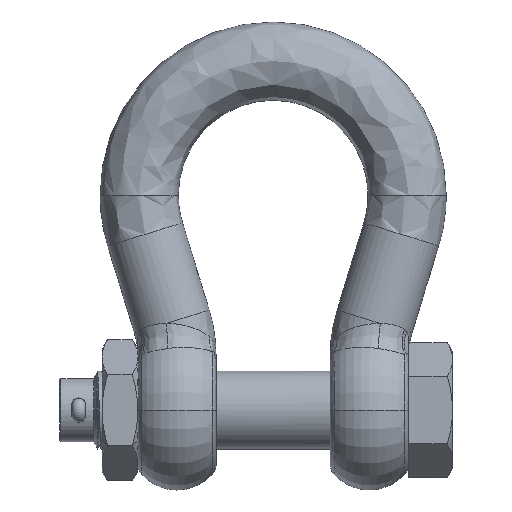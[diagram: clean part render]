
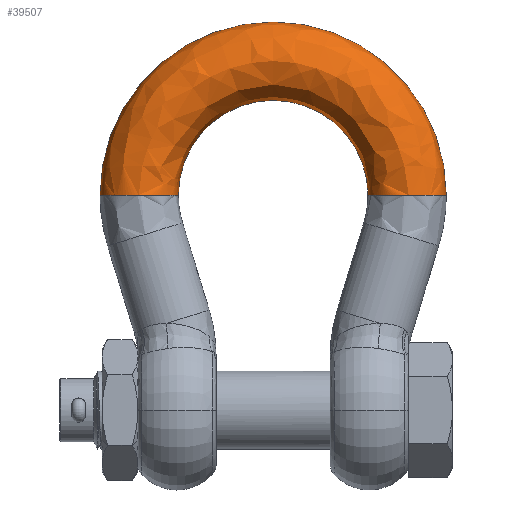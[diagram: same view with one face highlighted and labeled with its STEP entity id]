
A CAD part, top view. The second image highlights one B-rep face of the part: STEP entity #39507.
In plain terms, the highlighted free-form (B-spline) face has degree [3, 3] with [4, 4] control points.
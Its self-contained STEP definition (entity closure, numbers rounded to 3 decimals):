
#8503 = CARTESIAN_POINT ( 'NONE',  ( -125.995, 156.5, 0. ) ) ;
#8522 = DIRECTION ( 'NONE',  ( -1., 0., 0. ) ) ;
#8523 = DIRECTION ( 'NONE',  ( 0., 0., -1. ) ) ;
#8524 = CARTESIAN_POINT ( 'NONE',  ( 0., 156.5, 0. ) ) ;
#8525 = AXIS2_PLACEMENT_3D ( 'NONE', #8524, #8523, #8522 ) ;
#8527 = CIRCLE ( 'NONE', #8525, 125.995 ) ;
#8557 = CARTESIAN_POINT ( 'NONE',  ( 0., 156.5, 0. ) ) ;
#8558 = CARTESIAN_POINT ( 'NONE',  ( 69.005, 156.5, 0. ) ) ;
#8560 = CARTESIAN_POINT ( 'NONE',  ( 125.995, 156.5, 0. ) ) ;
#8577 = CARTESIAN_POINT ( 'NONE',  ( -69.005, 156.5, 0. ) ) ;
#8578 =( BOUNDED_CURVE ( )  B_SPLINE_CURVE ( 3, ( #8597, #8596, #8595, #8594 ),
 .UNSPECIFIED., .F., .F. ) 
 B_SPLINE_CURVE_WITH_KNOTS ( ( 4, 4 ),
 ( 0., 1. ),
 .UNSPECIFIED. ) 
 CURVE ( )  GEOMETRIC_REPRESENTATION_ITEM ( )  RATIONAL_B_SPLINE_CURVE ( ( 1., 0.333, 0.333, 1. ) ) 
 REPRESENTATION_ITEM ( '' )  );
#8579 =( BOUNDED_SURFACE ( )  B_SPLINE_SURFACE ( 3, 3, ( 
 ( #8577, #8612, #8611, #8610 ),
 ( #8609, #8608, #8607, #8606 ),
 ( #8605, #8604, #8603, #8602 ),
 ( #8601, #8600, #8599, #8598 ) ),
 .UNSPECIFIED., .F., .F., .F. ) 
 B_SPLINE_SURFACE_WITH_KNOTS ( ( 4, 4 ),
 ( 4, 4 ),
 ( 0., 1. ),
 ( 0., 1. ),
 .UNSPECIFIED. ) 
 GEOMETRIC_REPRESENTATION_ITEM ( )  RATIONAL_B_SPLINE_SURFACE ( (
 ( 1., 0.333, 0.333, 1.),
 ( 0.333, 0.111, 0.111, 0.333),
 ( 0.333, 0.111, 0.111, 0.333),
 ( 1., 0.333, 0.333, 1.) ) ) 
 REPRESENTATION_ITEM ( '' )  SURFACE ( )  );
#8581 = FACE_OUTER_BOUND ( 'NONE', #39508, .T. ) ;
#8582 = DIRECTION ( 'NONE',  ( -1., 0., 0. ) ) ;
#8583 = DIRECTION ( 'NONE',  ( 0., 0., 1. ) ) ;
#8584 = AXIS2_PLACEMENT_3D ( 'NONE', #8557, #8583, #8582 ) ;
#8585 = CIRCLE ( 'NONE', #8584, 69.005 ) ;
#8594 = CARTESIAN_POINT ( 'NONE',  ( 125.995, 156.5, 0. ) ) ;
#8595 = CARTESIAN_POINT ( 'NONE',  ( 125.995, 156.5, 56.99 ) ) ;
#8596 = CARTESIAN_POINT ( 'NONE',  ( 69.005, 156.5, 56.99 ) ) ;
#8597 = CARTESIAN_POINT ( 'NONE',  ( 69.005, 156.5, 0. ) ) ;
#8598 = CARTESIAN_POINT ( 'NONE',  ( 125.995, 156.5, 0. ) ) ;
#8599 = CARTESIAN_POINT ( 'NONE',  ( 125.995, 408.49, 0. ) ) ;
#8600 = CARTESIAN_POINT ( 'NONE',  ( -125.995, 408.49, 0. ) ) ;
#8601 = CARTESIAN_POINT ( 'NONE',  ( -125.995, 156.5, 0. ) ) ;
#8602 = CARTESIAN_POINT ( 'NONE',  ( 125.995, 156.5, 56.99 ) ) ;
#8603 = CARTESIAN_POINT ( 'NONE',  ( 125.995, 408.49, 56.99 ) ) ;
#8604 = CARTESIAN_POINT ( 'NONE',  ( -125.995, 408.49, 56.99 ) ) ;
#8605 = CARTESIAN_POINT ( 'NONE',  ( -125.995, 156.5, 56.99 ) ) ;
#8606 = CARTESIAN_POINT ( 'NONE',  ( 69.005, 156.5, 56.99 ) ) ;
#8607 = CARTESIAN_POINT ( 'NONE',  ( 69.005, 294.51, 56.99 ) ) ;
#8608 = CARTESIAN_POINT ( 'NONE',  ( -69.005, 294.51, 56.99 ) ) ;
#8609 = CARTESIAN_POINT ( 'NONE',  ( -69.005, 156.5, 56.99 ) ) ;
#8610 = CARTESIAN_POINT ( 'NONE',  ( 69.005, 156.5, 0. ) ) ;
#8611 = CARTESIAN_POINT ( 'NONE',  ( 69.005, 294.51, 0. ) ) ;
#8612 = CARTESIAN_POINT ( 'NONE',  ( -69.005, 294.51, 0. ) ) ;
#9065 = CARTESIAN_POINT ( 'NONE',  ( -69.005, 156.5, 0. ) ) ;
#9066 = B_SPLINE_CURVE_WITH_KNOTS ( 'NONE', 3,
 ( #9123, #9122, #9121, #9120, #9119, #9118, #9117, #9116, #9115, #9114, #9113, #9112, #9111, #9110, #9109, #9108, #9107, #9106, #9105, #9104, #9103, #9102, #9101, #9100, #9099, #9098, #9097, #9096, #9095, #9094, #9093, #9092, #9091, #9090 ),
 .UNSPECIFIED., .F., .F.,
 ( 4, 2, 2, 2, 2, 2, 2, 2, 2, 2, 2, 2, 2, 2, 2, 2, 4 ),
 ( 0., 0.063, 0.125, 0.188, 0.25, 0.313, 0.375, 0.438, 0.5, 0.563, 0.625, 0.688, 0.75, 0.813, 0.875, 0.938, 1. ),
 .UNSPECIFIED. ) ;
#9090 = CARTESIAN_POINT ( 'NONE',  ( -125.995, 156.5, 0. ) ) ;
#9091 = CARTESIAN_POINT ( 'NONE',  ( -125.995, 156.5, 1.871 ) ) ;
#9092 = CARTESIAN_POINT ( 'NONE',  ( -125.812, 156.5, 3.724 ) ) ;
#9093 = CARTESIAN_POINT ( 'NONE',  ( -125.083, 156.5, 7.394 ) ) ;
#9094 = CARTESIAN_POINT ( 'NONE',  ( -124.542, 156.5, 9.176 ) ) ;
#9095 = CARTESIAN_POINT ( 'NONE',  ( -123.11, 156.5, 12.633 ) ) ;
#9096 = CARTESIAN_POINT ( 'NONE',  ( -122.232, 156.5, 14.275 ) ) ;
#9097 = CARTESIAN_POINT ( 'NONE',  ( -120.153, 156.5, 17.387 ) ) ;
#9098 = CARTESIAN_POINT ( 'NONE',  ( -118.972, 156.5, 18.826 ) ) ;
#9099 = CARTESIAN_POINT ( 'NONE',  ( -116.326, 156.5, 21.472 ) ) ;
#9100 = CARTESIAN_POINT ( 'NONE',  ( -114.887, 156.5, 22.653 ) ) ;
#9101 = CARTESIAN_POINT ( 'NONE',  ( -111.775, 156.5, 24.732 ) ) ;
#9102 = CARTESIAN_POINT ( 'NONE',  ( -110.133, 156.5, 25.61 ) ) ;
#9103 = CARTESIAN_POINT ( 'NONE',  ( -106.676, 156.5, 27.042 ) ) ;
#9104 = CARTESIAN_POINT ( 'NONE',  ( -104.895, 156.5, 27.582 ) ) ;
#9105 = CARTESIAN_POINT ( 'NONE',  ( -101.224, 156.5, 28.313 ) ) ;
#9106 = CARTESIAN_POINT ( 'NONE',  ( -99.371, 156.5, 28.495 ) ) ;
#9107 = CARTESIAN_POINT ( 'NONE',  ( -95.629, 156.5, 28.495 ) ) ;
#9108 = CARTESIAN_POINT ( 'NONE',  ( -93.776, 156.5, 28.313 ) ) ;
#9109 = CARTESIAN_POINT ( 'NONE',  ( -90.106, 156.5, 27.582 ) ) ;
#9110 = CARTESIAN_POINT ( 'NONE',  ( -88.324, 156.5, 27.042 ) ) ;
#9111 = CARTESIAN_POINT ( 'NONE',  ( -84.867, 156.5, 25.61 ) ) ;
#9112 = CARTESIAN_POINT ( 'NONE',  ( -83.225, 156.5, 24.732 ) ) ;
#9113 = CARTESIAN_POINT ( 'NONE',  ( -80.113, 156.5, 22.653 ) ) ;
#9114 = CARTESIAN_POINT ( 'NONE',  ( -78.674, 156.5, 21.472 ) ) ;
#9115 = CARTESIAN_POINT ( 'NONE',  ( -76.028, 156.5, 18.826 ) ) ;
#9116 = CARTESIAN_POINT ( 'NONE',  ( -74.847, 156.5, 17.387 ) ) ;
#9117 = CARTESIAN_POINT ( 'NONE',  ( -72.768, 156.5, 14.275 ) ) ;
#9118 = CARTESIAN_POINT ( 'NONE',  ( -71.89, 156.5, 12.633 ) ) ;
#9119 = CARTESIAN_POINT ( 'NONE',  ( -70.458, 156.5, 9.176 ) ) ;
#9120 = CARTESIAN_POINT ( 'NONE',  ( -69.918, 156.5, 7.395 ) ) ;
#9121 = CARTESIAN_POINT ( 'NONE',  ( -69.187, 156.5, 3.724 ) ) ;
#9122 = CARTESIAN_POINT ( 'NONE',  ( -69.005, 156.5, 1.872 ) ) ;
#9123 = CARTESIAN_POINT ( 'NONE',  ( -69.005, 156.5, 0. ) ) ;
#39495 = VERTEX_POINT ( 'NONE', #8503 ) ;
#39500 = EDGE_CURVE ( 'NONE', #39495, #39501, #8527, .T. ) ;
#39501 = VERTEX_POINT ( 'NONE', #8560 ) ;
#39504 = VERTEX_POINT ( 'NONE', #8558 ) ;
#39506 = EDGE_CURVE ( 'NONE', #39504, #39664, #8585, .T. ) ;
#39507 = ADVANCED_FACE ( 'NONE', ( #8581 ), #8579, .F. ) ;
#39508 = EDGE_LOOP ( 'NONE', ( #39509, #39510, #39511, #39513 ) ) ;
#39509 = ORIENTED_EDGE ( 'NONE', *, *, #39663, .F. ) ;
#39510 = ORIENTED_EDGE ( 'NONE', *, *, #39506, .F. ) ;
#39511 = ORIENTED_EDGE ( 'NONE', *, *, #39512, .T. ) ;
#39512 = EDGE_CURVE ( 'NONE', #39504, #39501, #8578, .T. ) ;
#39513 = ORIENTED_EDGE ( 'NONE', *, *, #39500, .F. ) ;
#39663 = EDGE_CURVE ( 'NONE', #39664, #39495, #9066, .T. ) ;
#39664 = VERTEX_POINT ( 'NONE', #9065 ) ;
